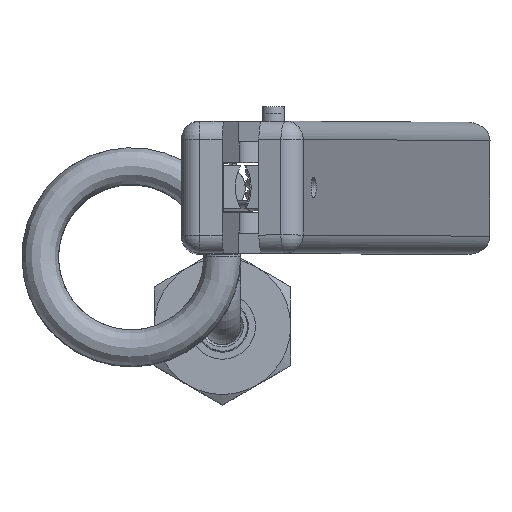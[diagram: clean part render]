
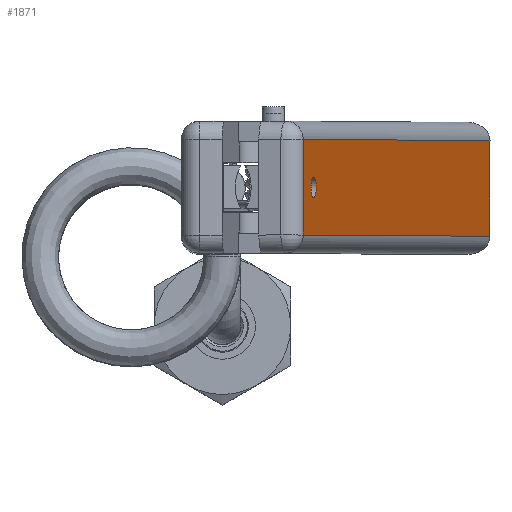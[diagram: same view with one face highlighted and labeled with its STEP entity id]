
A CAD part, top view. The second image highlights one B-rep face of the part: STEP entity #1871.
In plain terms, the highlighted planar face has unit normal (0.967, 0, 0.255) as drawn and (0, -1, 0) by its records, which use the part's own axes.
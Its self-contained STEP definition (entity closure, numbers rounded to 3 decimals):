
#1871=ADVANCED_FACE('',(#9910,#9912),#9914,.T.);
#9910=FACE_BOUND('',#9911,.T.);
#9911=EDGE_LOOP('',(#11695,#11696,#11697,#11698));
#9912=FACE_BOUND('',#9913,.T.);
#9913=EDGE_LOOP('',(#11699));
#9914=PLANE('',#9915);
#9915=AXIS2_PLACEMENT_3D('',#9916,#9917,#9918);
#9916=CARTESIAN_POINT('',(0.,0.,0.));
#9917=DIRECTION('',(0.,-1.,0.));
#9918=DIRECTION('',(1.,0.,0.));
#11695=ORIENTED_EDGE('',*,*,#12366,.F.);
#11696=ORIENTED_EDGE('',*,*,#12367,.T.);
#11697=ORIENTED_EDGE('',*,*,#12333,.T.);
#11698=ORIENTED_EDGE('',*,*,#12368,.F.);
#11699=ORIENTED_EDGE('',*,*,#12348,.T.);
#12333=EDGE_CURVE('',#13026,#13023,#13027,.T.);
#12348=EDGE_CURVE('',#13051,#13051,#13052,.F.);
#12366=EDGE_CURVE('',#13085,#13086,#13087,.T.);
#12367=EDGE_CURVE('',#13085,#13026,#13088,.T.);
#12368=EDGE_CURVE('',#13086,#13023,#13089,.T.);
#13023=VERTEX_POINT('',#15519);
#13026=VERTEX_POINT('',#15524);
#13027=LINE('',#15525,#15526);
#13051=VERTEX_POINT('',#15579);
#13052=CIRCLE('',#15580,2.25);
#13085=VERTEX_POINT('',#15655);
#13086=VERTEX_POINT('',#15656);
#13087=LINE('',#15657,#15658);
#13088=LINE('',#15660,#15661);
#13089=LINE('',#15663,#15664);
#15519=CARTESIAN_POINT('',(165.,0.,25.));
#15524=CARTESIAN_POINT('',(165.,0.,4.));
#15525=CARTESIAN_POINT('',(165.,0.,4.));
#15526=VECTOR('',#15527,1.);
#15527=DIRECTION('',(0.,0.,1.));
#15579=CARTESIAN_POINT('',(15.25,0.,14.5));
#15580=AXIS2_PLACEMENT_3D('',#15581,#15582,#15583);
#15581=CARTESIAN_POINT('',(13.,0.,14.5));
#15582=DIRECTION('',(0.,-1.,0.));
#15583=DIRECTION('',(1.,0.,0.));
#15655=CARTESIAN_POINT('',(4.,0.,4.));
#15656=CARTESIAN_POINT('',(4.,0.,25.));
#15657=CARTESIAN_POINT('',(4.,0.,4.));
#15658=VECTOR('',#15659,1.);
#15659=DIRECTION('',(0.,0.,1.));
#15660=CARTESIAN_POINT('',(4.,0.,4.));
#15661=VECTOR('',#15662,1.);
#15662=DIRECTION('',(1.,0.,0.));
#15663=CARTESIAN_POINT('',(4.,0.,25.));
#15664=VECTOR('',#15665,1.);
#15665=DIRECTION('',(1.,0.,0.));
